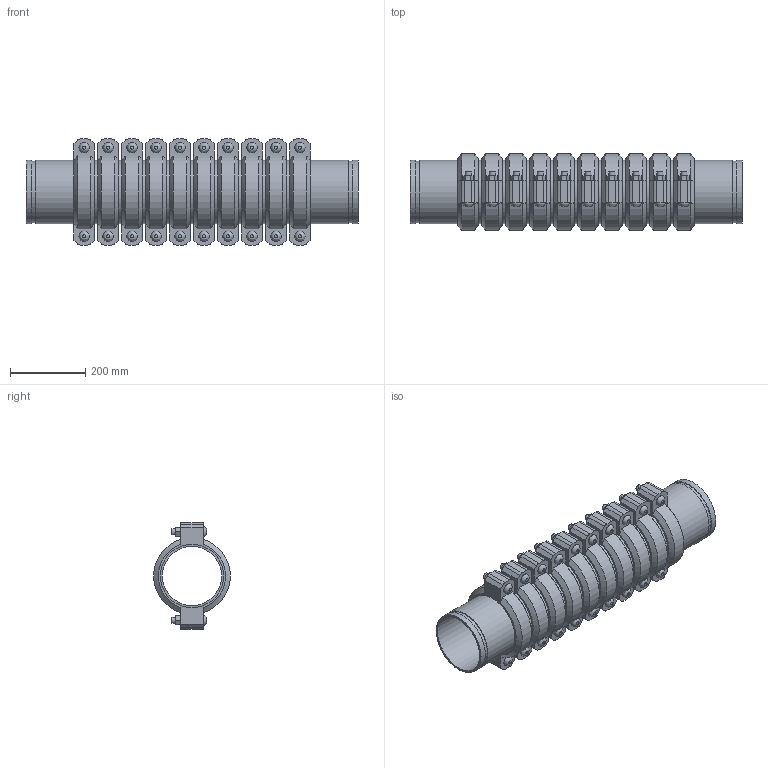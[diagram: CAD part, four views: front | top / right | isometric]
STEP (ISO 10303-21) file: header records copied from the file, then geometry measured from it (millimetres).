
FILE_DESCRIPTION(/* description */ ('VIC SS EXPANSION JOINT 10 COUPLINGS NEUTRAL STYLE 155P (OGS) (POTABLE WATER) ','CAx-IF Rec.Pracs.---Representation and Presentation of Product Manufacturing Information (PMI)---4.0---2014-10-13'),/* implementation_level */ '2;1');
FILE_NAME(/* name */ 'C:\Users\kkamble\AppData\Roaming\Autodesk\ApplicationPlugins\Victaulic.Temp\A116\Victaulic_SS_Expansion Joint_Neutral_10 Couplings_Style 155P (OGS)-Potable Water_10 Coup_Neut_6 (150).stp',/* time_stamp */ '2021-07-16T16:27:19+06:00',/* author */ ('kkamble'),/* organization */ ('Victaulic'),/* preprocessor_version */ 'ST-DEVELOPER v17.2',/* originating_system */ 'Autodesk Inventor 2019',/* authorisation */ '');
FILE_SCHEMA (('AP242_MANAGED_MODEL_BASED_3D_ENGINEERING_MIM_LF { 1 0 10303 442 1 1 4 }'));
Length unit declared in the file: inch
Products named in the file (4): 155P-06.0; Nipple-06.0; Nipple-06.0_1; 075-06.0
Assembly tree (21 placements, depth 2):
  155P-06.0
    Nipple-06.0  x2
    Nipple-06.0_1  x9
    075-06.0  x10
Bounding box: 879.86 x 202.46 x 281.18 mm (x, y, z)
Volume: 9728066.6 mm3; surface area: 2109072.3 mm2
Topology: 21 solids, 41 shells, 702 faces, 1660 edges, 1164 vertices
Faces by surface type: plane 426, cylinder 216, cone 40, bspline 20
Full cylindrical faces by diameter (mm): 15.875 x40, 17.424 x20, 157.15 x11, 161.925 x10, 163.957 x22, 168.275 x53
Entity records: 2881 total; most frequent: CARTESIAN_POINT 505, DIRECTION 485, ORIENTED_EDGE 386, AXIS2_PLACEMENT_3D 196, EDGE_CURVE 193, VERTEX_POINT 138, EDGE_LOOP 107, LINE 93
